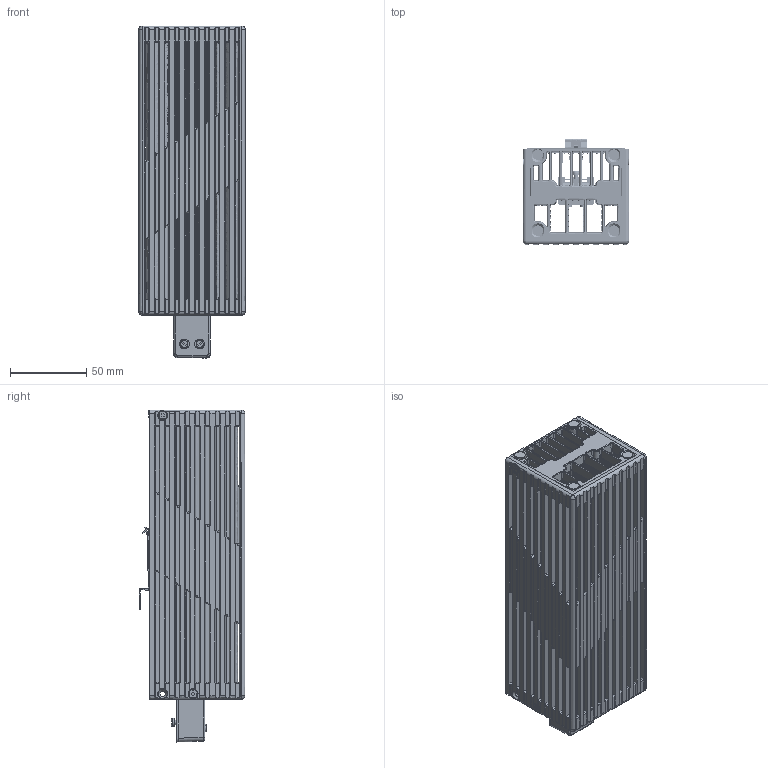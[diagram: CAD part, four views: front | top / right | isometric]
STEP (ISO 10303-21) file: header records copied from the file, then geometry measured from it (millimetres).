
FILE_DESCRIPTION(/* description */ ('Unknown'),/* implementation_level */ '2;1');
FILE_NAME(/* name */ '7H_51_0_230_0150',/* time_stamp */ '2016-11-03T13:14:20+01:00',/* author */ ('Unknown'),/* organization */ ('Unknown'),/* preprocessor_version */ 'ST-DEVELOPER v16',/* originating_system */ 'DEX',/* authorisation */ $);
FILE_SCHEMA (('AUTOMOTIVE_DESIGN {1 0 10303 214 3 1 1}'));
Products named in the file (1): 7H_51_0_230_0150
Bounding box: 70 x 69.35 x 218.13 mm (x, y, z)
Volume: 284630.9 mm3; surface area: 303875.5 mm2
Topology: 23 solids, 24 shells, 2594 faces, 7700 edges, 5041 vertices
Faces by surface type: plane 1947, cylinder 369, bspline 111, cone 97, torus 68, sphere 2
Full cylindrical faces by diameter (mm): 2.5 x1, 2.9 x1, 3 x5, 4.7 x4, 4.75 x2, 4.95 x1, 5.5 x1, 6.45 x2
Entity records: 99448 total; most frequent: CARTESIAN_POINT 31559, ORIENTED_EDGE 15176, DIRECTION 12583, EDGE_CURVE 7636, LINE 5513, VECTOR 5513, VERTEX_POINT 5019, AXIS2_PLACEMENT_3D 3535
